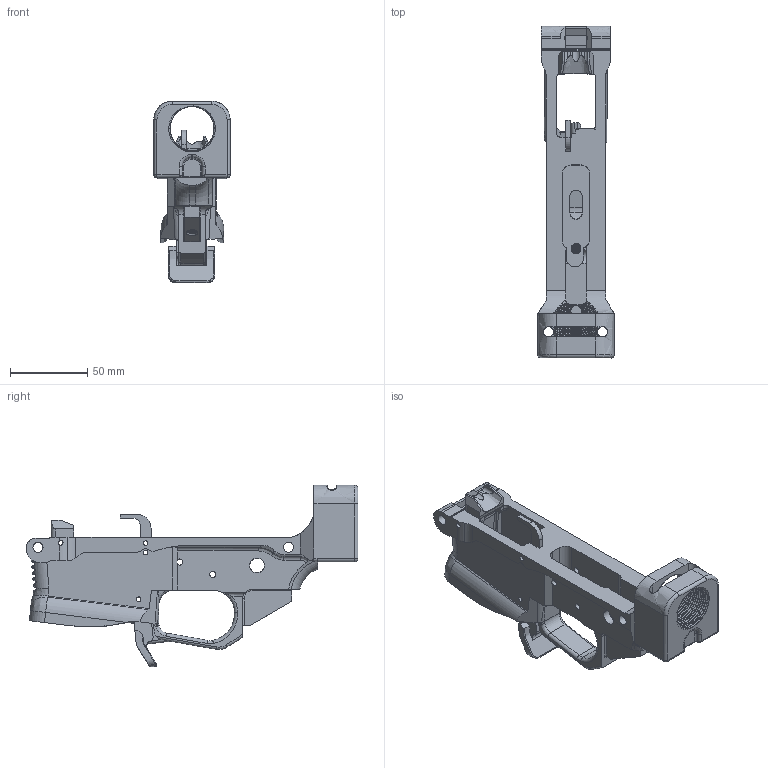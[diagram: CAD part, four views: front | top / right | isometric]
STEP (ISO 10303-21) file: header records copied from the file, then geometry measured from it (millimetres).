
FILE_DESCRIPTION(/* description */ (''),/* implementation_level */ '2;1');
FILE_NAME(/* name */ 'PCC 1.0/STEP/Lowers/AR-9 Evo - Final.step',/* time_stamp */ '2022-04-15T19:35:59-04:00',/* author */ (''),/* organization */ (''),/* preprocessor_version */ 'ST-DEVELOPER v18.1',/* originating_system */ 'Autodesk Translation Framework v10.14.0.1471',/* authorisation */ '');
FILE_SCHEMA (('AUTOMOTIVE_DESIGN { 1 0 10303 214 3 1 1 }'));
Products named in the file (5): (Unsaved); Mag Catch (1) (1); Frame - final; Ejector-steel (8); Feed ramp
Assembly tree (4 placements, depth 2):
  (Unsaved)
    Mag Catch (1) (1)
    Frame - final
    Ejector-steel (8)
    Feed ramp
Bounding box: 49.27 x 214.5 x 117.58 mm (x, y, z)
Volume: 206812 mm3; surface area: 74990.9 mm2
Topology: 4 solids, 4 shells, 904 faces, 2675 edges, 1753 vertices
Faces by surface type: plane 299, bspline 295, cylinder 285, torus 16, cone 7, sphere 2
Full cylindrical faces by diameter (mm): 3 x13, 3.175 x1, 3.962 x4, 5 x1, 5.172 x21, 6 x1, 6.35 x20, 6.5 x6, 6.75 x1, 9.525 x2, 28.47 x4, 30.043 x11
Entity records: 83193 total; most frequent: CARTESIAN_POINT 61277, ORIENTED_EDGE 5294, DIRECTION 3418, EDGE_CURVE 2647, VERTEX_POINT 1749, LINE 1168, VECTOR 1168, AXIS2_PLACEMENT_3D 1125
